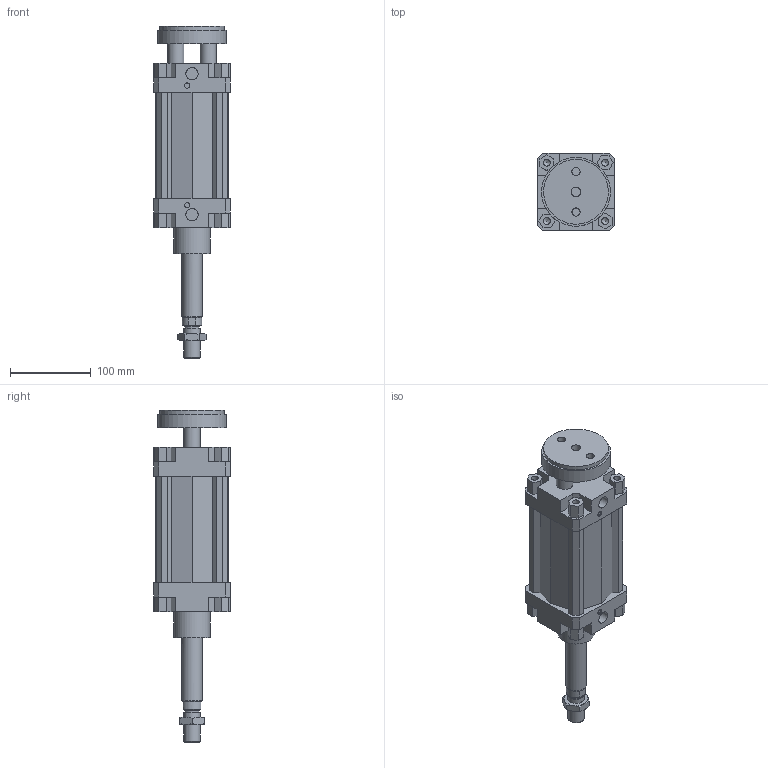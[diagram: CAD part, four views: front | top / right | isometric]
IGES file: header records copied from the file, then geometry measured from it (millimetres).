
Global section: file name: 132#_080_0075_02; native system: Autodesk Inventor 2014; preprocessor: unknown; author: A. Manieri; date: 20161006.162327; units: millimetre
Bounding box: 95 x 95 x 410 mm (x, y, z)
Volume: 1381629.1 mm3; surface area: 241445.2 mm2
Topology: 3 solids, 3 shells, 220 faces, 589 edges, 397 vertices
Faces by surface type: bspline 220
